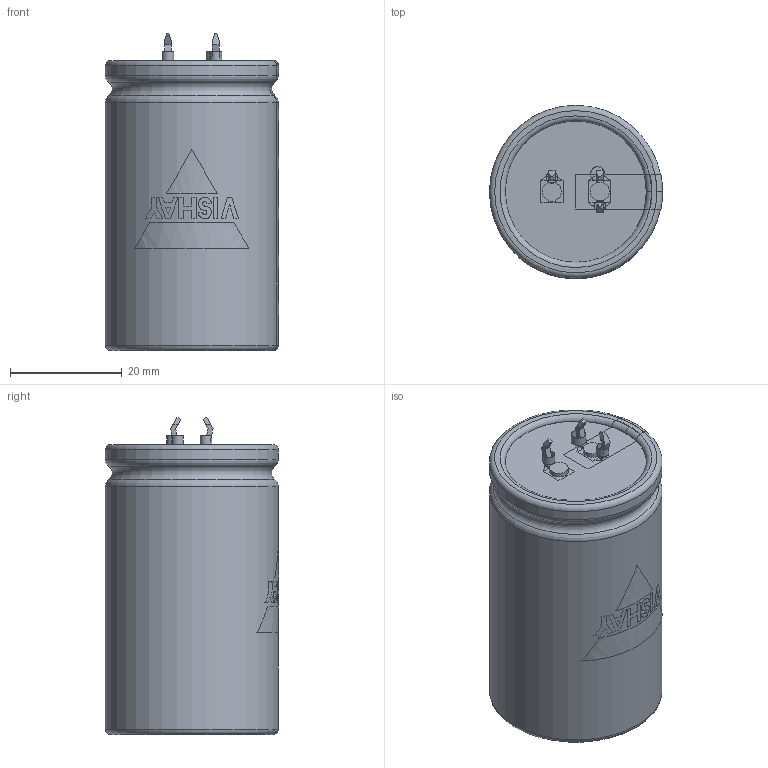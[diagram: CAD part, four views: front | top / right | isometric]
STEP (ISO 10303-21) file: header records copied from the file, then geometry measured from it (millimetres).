
FILE_DESCRIPTION(('FreeCAD Model'),'2;1');
FILE_NAME( 'C:/Users/Gebruiker/Documents/FreeCAD/SnapIn_30x40_3pin_4.0.step', '2020-11-12T21:13:02',('Author'),(''), 'Open CASCADE STEP processor 6.8','FreeCAD','Unknown');
FILE_SCHEMA(('AUTOMOTIVE_DESIGN_CC2 { 1 2 10303 214 -1 1 5 4 }'));
Length unit declared in the file: millimetre
Products named in the file (9): ASSEMBLY; TerminalPlus; Disc; BottomInsulation; Can3D; InkMinusBar; InkLogo; TerminalMinKP; PCBHolesKP
Assembly tree (8 placements, depth 2):
  ASSEMBLY
    TerminalPlus
    Disc
    BottomInsulation
    Can3D
    InkMinusBar
    InkLogo
    TerminalMinKP
    PCBHolesKP
Bounding box: 31.05 x 31.05 x 56.95 mm (x, y, z)
Volume: 44189.4 mm3; surface area: 15343.4 mm2
Topology: 17 solids, 17 shells, 213 faces, 531 edges, 347 vertices
Faces by surface type: plane 164, cylinder 31, torus 18
Full cylindrical faces by diameter (mm): 2 x2, 2.1 x2, 2.5 x1, 2.6 x1, 3.4 x2, 24.8 x2, 25.3 x1, 31 x2
Entity records: 21848 total; most frequent: CARTESIAN_POINT 10046, DIRECTION 1829, ORIENTED_EDGE 1062, PCURVE 1062, DEFINITIONAL_REPRESENTATION 1062, LINE 1026, VECTOR 1026, EDGE_CURVE 531
